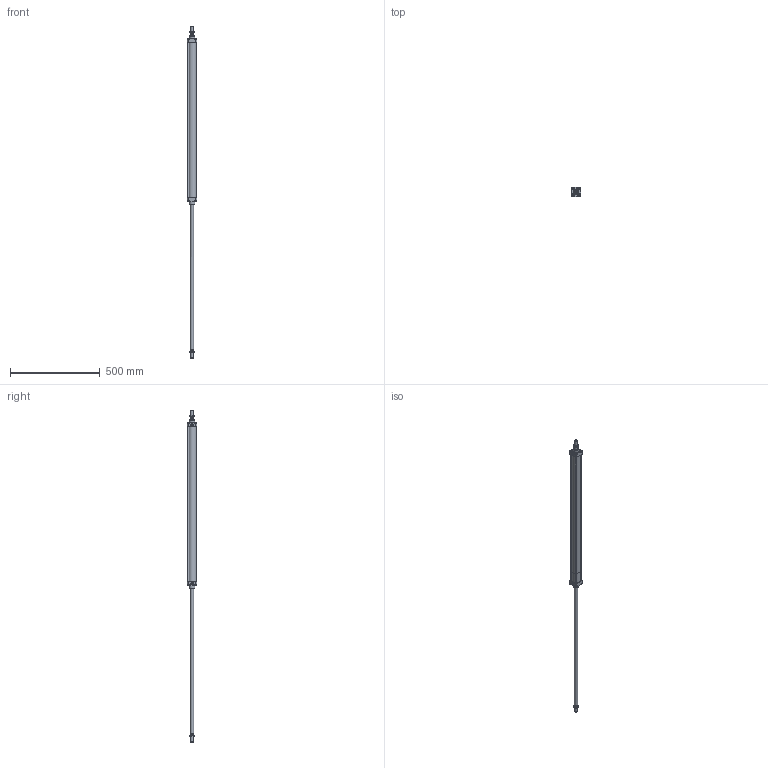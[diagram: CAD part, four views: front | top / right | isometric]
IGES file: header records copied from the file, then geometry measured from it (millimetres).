
Global section: file name: 1303_040_0800_02A; native system: Autodesk Inventor 2014; preprocessor: unknown; author: A. Manieri; date: 20161123.144334; units: millimetre
Bounding box: 52 x 52 x 1850 mm (x, y, z)
Volume: 1036779.2 mm3; surface area: 443425 mm2
Topology: 10 solids, 10 shells, 189 faces, 471 edges, 314 vertices
Faces by surface type: bspline 189
